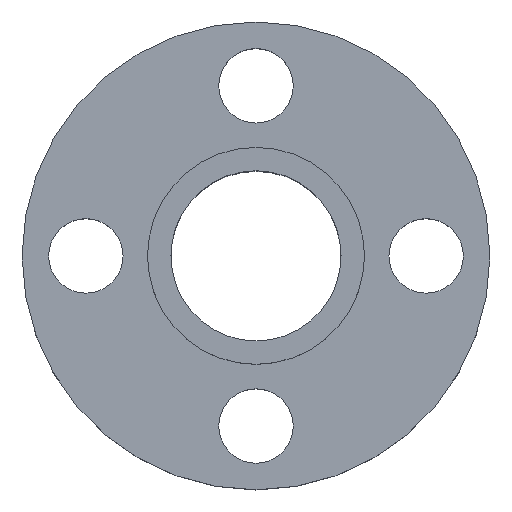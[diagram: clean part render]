
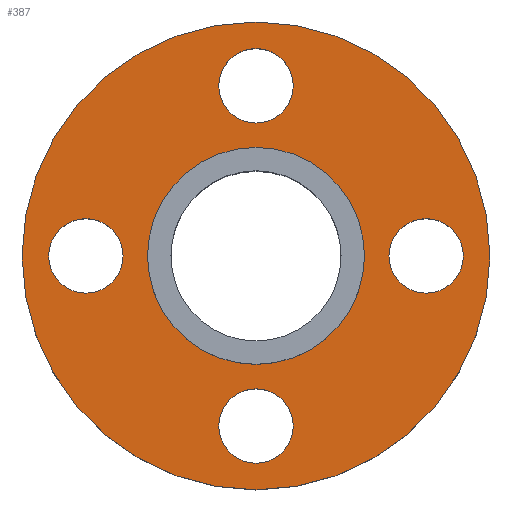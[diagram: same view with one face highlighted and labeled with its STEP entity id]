
A CAD part, top view. The second image highlights one B-rep face of the part: STEP entity #387.
In plain terms, the highlighted planar face has unit normal (0, 0, 1).
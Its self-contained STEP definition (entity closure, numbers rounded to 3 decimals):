
#98 = CYLINDRICAL_SURFACE('',#99,5.1);
#99 = AXIS2_PLACEMENT_3D('',#100,#101,#102);
#100 = CARTESIAN_POINT('',(0.,0.,5.));
#101 = DIRECTION('',(0.,0.,-1.));
#102 = DIRECTION('',(-1.,0.,0.));
#252 = CYLINDRICAL_SURFACE('',#253,1.75);
#253 = AXIS2_PLACEMENT_3D('',#254,#255,#256);
#254 = CARTESIAN_POINT('',(-8.,0.,3.5));
#255 = DIRECTION('',(0.,0.,-1.));
#256 = DIRECTION('',(-1.,0.,0.));
#283 = CYLINDRICAL_SURFACE('',#284,1.75);
#284 = AXIS2_PLACEMENT_3D('',#285,#286,#287);
#285 = CARTESIAN_POINT('',(0.,8.,3.5));
#286 = DIRECTION('',(0.,0.,-1.));
#287 = DIRECTION('',(-1.,0.,0.));
#314 = CYLINDRICAL_SURFACE('',#315,1.75);
#315 = AXIS2_PLACEMENT_3D('',#316,#317,#318);
#316 = CARTESIAN_POINT('',(8.,0.,3.5));
#317 = DIRECTION('',(0.,0.,-1.));
#318 = DIRECTION('',(-1.,0.,0.));
#345 = CYLINDRICAL_SURFACE('',#346,1.75);
#346 = AXIS2_PLACEMENT_3D('',#347,#348,#349);
#347 = CARTESIAN_POINT('',(0.,-8.,3.5));
#348 = DIRECTION('',(0.,0.,-1.));
#349 = DIRECTION('',(-1.,0.,0.));
#376 = CYLINDRICAL_SURFACE('',#377,11.);
#377 = AXIS2_PLACEMENT_3D('',#378,#379,#380);
#378 = CARTESIAN_POINT('',(0.,0.,3.5));
#379 = DIRECTION('',(0.,0.,-1.));
#380 = DIRECTION('',(-1.,0.,0.));
#387 = ADVANCED_FACE('',(#388,#419,#445,#471,#497,#523),#401,.T.);
#388 = FACE_BOUND('',#389,.T.);
#389 = EDGE_LOOP('',(#390));
#390 = ORIENTED_EDGE('',*,*,#391,.F.);
#391 = EDGE_CURVE('',#392,#392,#394,.T.);
#392 = VERTEX_POINT('',#393);
#393 = CARTESIAN_POINT('',(5.1,0.,3.2));
#394 = SURFACE_CURVE('',#395,(#400,#412),.PCURVE_S1.);
#395 = CIRCLE('',#396,5.1);
#396 = AXIS2_PLACEMENT_3D('',#397,#398,#399);
#397 = CARTESIAN_POINT('',(0.,0.,3.2));
#398 = DIRECTION('',(0.,0.,1.));
#399 = DIRECTION('',(1.,0.,-0.));
#400 = PCURVE('',#401,#406);
#401 = PLANE('',#402);
#402 = AXIS2_PLACEMENT_3D('',#403,#404,#405);
#403 = CARTESIAN_POINT('',(0.,0.,3.2));
#404 = DIRECTION('',(0.,0.,1.));
#405 = DIRECTION('',(1.,0.,-0.));
#406 = DEFINITIONAL_REPRESENTATION('',(#407),#411);
#407 = CIRCLE('',#408,5.1);
#408 = AXIS2_PLACEMENT_2D('',#409,#410);
#409 = CARTESIAN_POINT('',(0.,0.));
#410 = DIRECTION('',(1.,0.));
#411 = ( GEOMETRIC_REPRESENTATION_CONTEXT(2) 
PARAMETRIC_REPRESENTATION_CONTEXT() REPRESENTATION_CONTEXT('2D SPACE',''
  ) );
#412 = PCURVE('',#98,#413);
#413 = DEFINITIONAL_REPRESENTATION('',(#414),#418);
#414 = LINE('',#415,#416);
#415 = CARTESIAN_POINT('',(9.425,1.8));
#416 = VECTOR('',#417,1.);
#417 = DIRECTION('',(-1.,0.));
#418 = ( GEOMETRIC_REPRESENTATION_CONTEXT(2) 
PARAMETRIC_REPRESENTATION_CONTEXT() REPRESENTATION_CONTEXT('2D SPACE',''
  ) );
#419 = FACE_BOUND('',#420,.T.);
#420 = EDGE_LOOP('',(#421));
#421 = ORIENTED_EDGE('',*,*,#422,.F.);
#422 = EDGE_CURVE('',#423,#423,#425,.T.);
#423 = VERTEX_POINT('',#424);
#424 = CARTESIAN_POINT('',(-6.25,0.,3.2));
#425 = SURFACE_CURVE('',#426,(#431,#438),.PCURVE_S1.);
#426 = CIRCLE('',#427,1.75);
#427 = AXIS2_PLACEMENT_3D('',#428,#429,#430);
#428 = CARTESIAN_POINT('',(-8.,0.,3.2));
#429 = DIRECTION('',(0.,0.,1.));
#430 = DIRECTION('',(1.,0.,-0.));
#431 = PCURVE('',#401,#432);
#432 = DEFINITIONAL_REPRESENTATION('',(#433),#437);
#433 = CIRCLE('',#434,1.75);
#434 = AXIS2_PLACEMENT_2D('',#435,#436);
#435 = CARTESIAN_POINT('',(-8.,0.));
#436 = DIRECTION('',(1.,0.));
#437 = ( GEOMETRIC_REPRESENTATION_CONTEXT(2) 
PARAMETRIC_REPRESENTATION_CONTEXT() REPRESENTATION_CONTEXT('2D SPACE',''
  ) );
#438 = PCURVE('',#252,#439);
#439 = DEFINITIONAL_REPRESENTATION('',(#440),#444);
#440 = LINE('',#441,#442);
#441 = CARTESIAN_POINT('',(9.425,0.3));
#442 = VECTOR('',#443,1.);
#443 = DIRECTION('',(-1.,0.));
#444 = ( GEOMETRIC_REPRESENTATION_CONTEXT(2) 
PARAMETRIC_REPRESENTATION_CONTEXT() REPRESENTATION_CONTEXT('2D SPACE',''
  ) );
#445 = FACE_BOUND('',#446,.T.);
#446 = EDGE_LOOP('',(#447));
#447 = ORIENTED_EDGE('',*,*,#448,.F.);
#448 = EDGE_CURVE('',#449,#449,#451,.T.);
#449 = VERTEX_POINT('',#450);
#450 = CARTESIAN_POINT('',(1.75,8.,3.2));
#451 = SURFACE_CURVE('',#452,(#457,#464),.PCURVE_S1.);
#452 = CIRCLE('',#453,1.75);
#453 = AXIS2_PLACEMENT_3D('',#454,#455,#456);
#454 = CARTESIAN_POINT('',(0.,8.,3.2));
#455 = DIRECTION('',(0.,0.,1.));
#456 = DIRECTION('',(1.,0.,-0.));
#457 = PCURVE('',#401,#458);
#458 = DEFINITIONAL_REPRESENTATION('',(#459),#463);
#459 = CIRCLE('',#460,1.75);
#460 = AXIS2_PLACEMENT_2D('',#461,#462);
#461 = CARTESIAN_POINT('',(0.,8.));
#462 = DIRECTION('',(1.,0.));
#463 = ( GEOMETRIC_REPRESENTATION_CONTEXT(2) 
PARAMETRIC_REPRESENTATION_CONTEXT() REPRESENTATION_CONTEXT('2D SPACE',''
  ) );
#464 = PCURVE('',#283,#465);
#465 = DEFINITIONAL_REPRESENTATION('',(#466),#470);
#466 = LINE('',#467,#468);
#467 = CARTESIAN_POINT('',(9.425,0.3));
#468 = VECTOR('',#469,1.);
#469 = DIRECTION('',(-1.,0.));
#470 = ( GEOMETRIC_REPRESENTATION_CONTEXT(2) 
PARAMETRIC_REPRESENTATION_CONTEXT() REPRESENTATION_CONTEXT('2D SPACE',''
  ) );
#471 = FACE_BOUND('',#472,.T.);
#472 = EDGE_LOOP('',(#473));
#473 = ORIENTED_EDGE('',*,*,#474,.F.);
#474 = EDGE_CURVE('',#475,#475,#477,.T.);
#475 = VERTEX_POINT('',#476);
#476 = CARTESIAN_POINT('',(9.75,0.,3.2));
#477 = SURFACE_CURVE('',#478,(#483,#490),.PCURVE_S1.);
#478 = CIRCLE('',#479,1.75);
#479 = AXIS2_PLACEMENT_3D('',#480,#481,#482);
#480 = CARTESIAN_POINT('',(8.,0.,3.2));
#481 = DIRECTION('',(0.,0.,1.));
#482 = DIRECTION('',(1.,0.,-0.));
#483 = PCURVE('',#401,#484);
#484 = DEFINITIONAL_REPRESENTATION('',(#485),#489);
#485 = CIRCLE('',#486,1.75);
#486 = AXIS2_PLACEMENT_2D('',#487,#488);
#487 = CARTESIAN_POINT('',(8.,0.));
#488 = DIRECTION('',(1.,0.));
#489 = ( GEOMETRIC_REPRESENTATION_CONTEXT(2) 
PARAMETRIC_REPRESENTATION_CONTEXT() REPRESENTATION_CONTEXT('2D SPACE',''
  ) );
#490 = PCURVE('',#314,#491);
#491 = DEFINITIONAL_REPRESENTATION('',(#492),#496);
#492 = LINE('',#493,#494);
#493 = CARTESIAN_POINT('',(9.425,0.3));
#494 = VECTOR('',#495,1.);
#495 = DIRECTION('',(-1.,0.));
#496 = ( GEOMETRIC_REPRESENTATION_CONTEXT(2) 
PARAMETRIC_REPRESENTATION_CONTEXT() REPRESENTATION_CONTEXT('2D SPACE',''
  ) );
#497 = FACE_BOUND('',#498,.T.);
#498 = EDGE_LOOP('',(#499));
#499 = ORIENTED_EDGE('',*,*,#500,.F.);
#500 = EDGE_CURVE('',#501,#501,#503,.T.);
#501 = VERTEX_POINT('',#502);
#502 = CARTESIAN_POINT('',(1.75,-8.,3.2));
#503 = SURFACE_CURVE('',#504,(#509,#516),.PCURVE_S1.);
#504 = CIRCLE('',#505,1.75);
#505 = AXIS2_PLACEMENT_3D('',#506,#507,#508);
#506 = CARTESIAN_POINT('',(0.,-8.,3.2));
#507 = DIRECTION('',(0.,0.,1.));
#508 = DIRECTION('',(1.,0.,-0.));
#509 = PCURVE('',#401,#510);
#510 = DEFINITIONAL_REPRESENTATION('',(#511),#515);
#511 = CIRCLE('',#512,1.75);
#512 = AXIS2_PLACEMENT_2D('',#513,#514);
#513 = CARTESIAN_POINT('',(0.,-8.));
#514 = DIRECTION('',(1.,0.));
#515 = ( GEOMETRIC_REPRESENTATION_CONTEXT(2) 
PARAMETRIC_REPRESENTATION_CONTEXT() REPRESENTATION_CONTEXT('2D SPACE',''
  ) );
#516 = PCURVE('',#345,#517);
#517 = DEFINITIONAL_REPRESENTATION('',(#518),#522);
#518 = LINE('',#519,#520);
#519 = CARTESIAN_POINT('',(9.425,0.3));
#520 = VECTOR('',#521,1.);
#521 = DIRECTION('',(-1.,0.));
#522 = ( GEOMETRIC_REPRESENTATION_CONTEXT(2) 
PARAMETRIC_REPRESENTATION_CONTEXT() REPRESENTATION_CONTEXT('2D SPACE',''
  ) );
#523 = FACE_BOUND('',#524,.T.);
#524 = EDGE_LOOP('',(#525));
#525 = ORIENTED_EDGE('',*,*,#526,.T.);
#526 = EDGE_CURVE('',#527,#527,#529,.T.);
#527 = VERTEX_POINT('',#528);
#528 = CARTESIAN_POINT('',(11.,0.,3.2));
#529 = SURFACE_CURVE('',#530,(#535,#542),.PCURVE_S1.);
#530 = CIRCLE('',#531,11.);
#531 = AXIS2_PLACEMENT_3D('',#532,#533,#534);
#532 = CARTESIAN_POINT('',(0.,0.,3.2));
#533 = DIRECTION('',(0.,0.,1.));
#534 = DIRECTION('',(1.,0.,-0.));
#535 = PCURVE('',#401,#536);
#536 = DEFINITIONAL_REPRESENTATION('',(#537),#541);
#537 = CIRCLE('',#538,11.);
#538 = AXIS2_PLACEMENT_2D('',#539,#540);
#539 = CARTESIAN_POINT('',(0.,0.));
#540 = DIRECTION('',(1.,0.));
#541 = ( GEOMETRIC_REPRESENTATION_CONTEXT(2) 
PARAMETRIC_REPRESENTATION_CONTEXT() REPRESENTATION_CONTEXT('2D SPACE',''
  ) );
#542 = PCURVE('',#376,#543);
#543 = DEFINITIONAL_REPRESENTATION('',(#544),#548);
#544 = LINE('',#545,#546);
#545 = CARTESIAN_POINT('',(9.425,0.3));
#546 = VECTOR('',#547,1.);
#547 = DIRECTION('',(-1.,0.));
#548 = ( GEOMETRIC_REPRESENTATION_CONTEXT(2) 
PARAMETRIC_REPRESENTATION_CONTEXT() REPRESENTATION_CONTEXT('2D SPACE',''
  ) );
